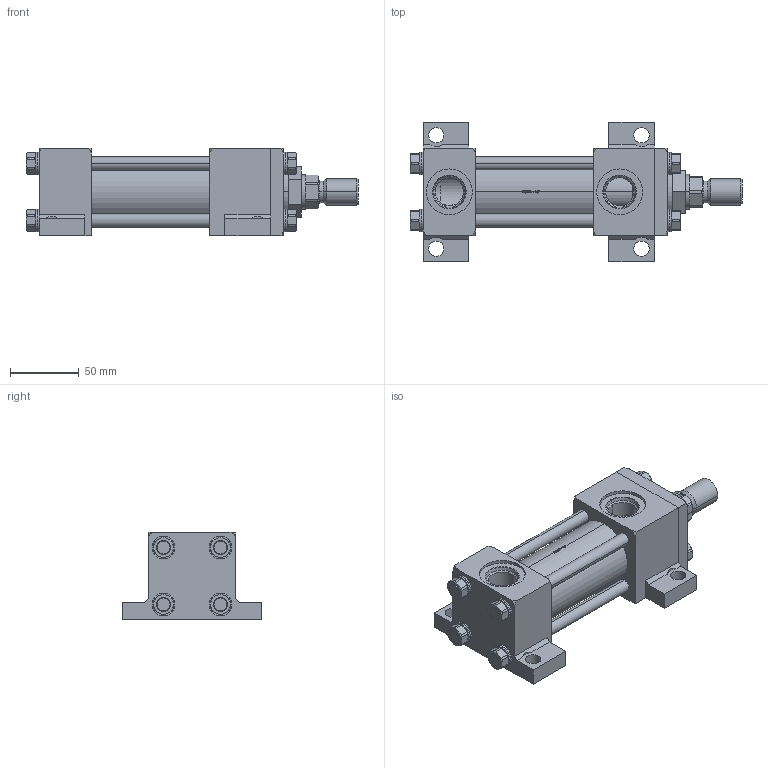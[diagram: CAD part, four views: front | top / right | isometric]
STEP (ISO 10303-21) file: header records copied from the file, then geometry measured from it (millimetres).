
FILE_DESCRIPTION (( 'STEP AP214' ), '1' );
FILE_NAME ('1.50C2HHNAT124A2.000.step', '2026-03-26T21:12:06', ( '' ), ( '' ), 'SwSTEP 2.0', 'SolidWorks 2023', '' );
FILE_SCHEMA (( 'AUTOMOTIVE_DESIGN' ));
Length unit declared in the file: inch
Products named in the file (1): 1.50C2HHNAT124A2.000
Bounding box: 241.3 x 101.6 x 63.5 mm (x, y, z)
Volume: 538627.2 mm3; surface area: 166903.2 mm2
Topology: 46 solids, 46 shells, 1216 faces, 3135 edges, 2018 vertices
Faces by surface type: plane 794, cylinder 219, cone 163, bspline 32, torus 8
Entity records: 54868 total; most frequent: CARTESIAN_POINT 10735, ORIENTED_EDGE 6270, DIRECTION 5129, EDGE_CURVE 3135, VERTEX_POINT 2018, AXIS2_PLACEMENT_3D 1739, LINE 1651, VECTOR 1651
